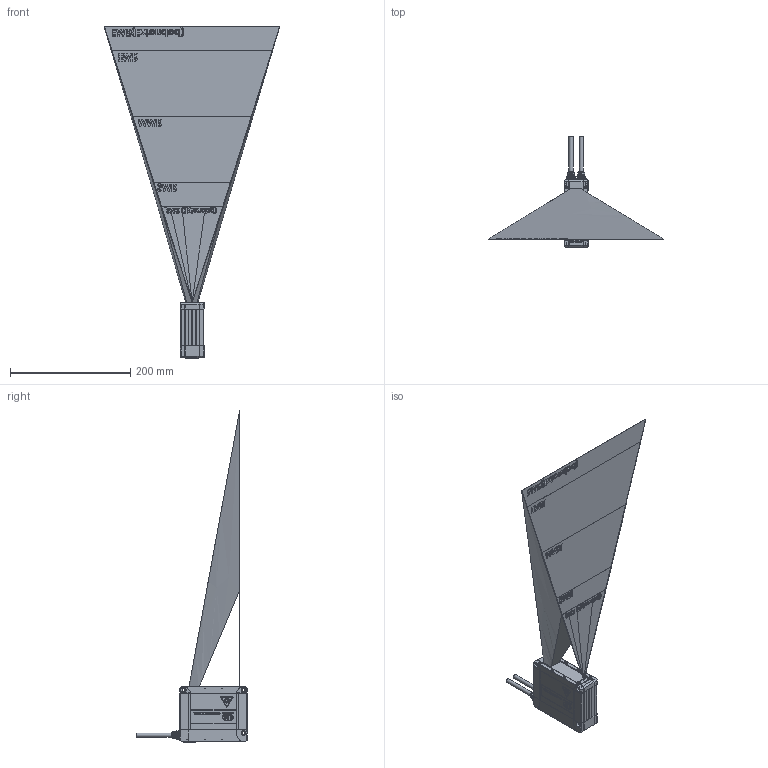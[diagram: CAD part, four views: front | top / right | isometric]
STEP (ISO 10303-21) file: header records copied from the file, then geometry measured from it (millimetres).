
FILE_DESCRIPTION (( 'STEP AP214' ), '1' );
FILE_NAME ('LLT30xx-200.STEP', '2022-11-28T16:41:31', ( '' ), ( '' ), 'SwSTEP 2.0', 'SolidWorks 2020', '' );
FILE_SCHEMA (( 'AUTOMOTIVE_DESIGN' ));
Length unit declared in the file: millimetre
Products named in the file (9): EMR(Ext); EMR; SMR(Ext); Measurementrange; SMR; Sensor; LLT30xx-200; Field of View; MMR
Assembly tree (8 placements, depth 3):
  LLT30xx-200
    Sensor
    Measurementrange
      SMR(Ext)
      SMR
      MMR
      EMR
      EMR(Ext)
    Field of View
Bounding box: 292.5 x 183.4 x 552.2 mm (x, y, z)
Volume: 2233799.7 mm3; surface area: 573897.1 mm2
Topology: 7 solids, 33 shells, 7328 faces, 20639 edges, 13640 vertices
Faces by surface type: plane 5888, bspline 1034, cylinder 280, cone 92, torus 34
Full cylindrical faces by diameter (mm): 2 x16, 2.4 x19, 3.8 x16, 4.2 x3, 4.4 x16, 6.8 x4, 8 x4, 9.2 x2, 10.268 x2, 10.75 x2, 10.8 x2, 11.2 x2, 13 x2, 13.5 x2, 15 x2
Entity records: 360172 total; most frequent: CARTESIAN_POINT 98203, ORIENTED_EDGE 40628, DIRECTION 31568, EDGE_CURVE 20314, VECTOR 17256, LINE 17256, VERTEX_POINT 13533, EDGE_LOOP 7883
